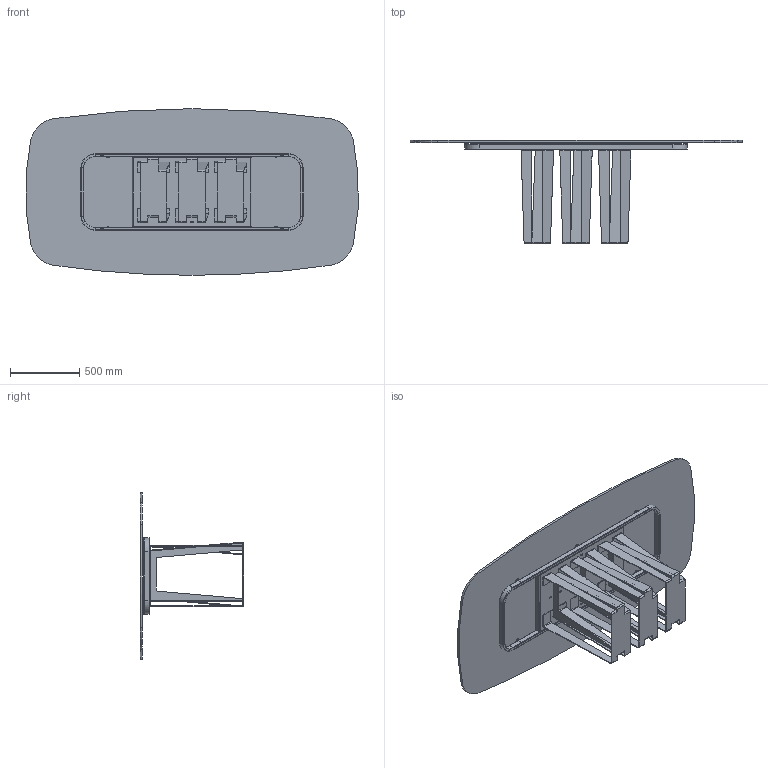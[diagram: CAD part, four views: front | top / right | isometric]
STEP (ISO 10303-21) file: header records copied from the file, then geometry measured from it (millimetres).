
FILE_DESCRIPTION (( 'STEP AP203' ), '1' );
FILE_NAME ('NA43G.STEP', '2024-08-07T14:38:11', ( '' ), ( '' ), 'SwSTEP 2.0', 'SolidWorks 2022', '' );
FILE_SCHEMA (( 'CONFIG_CONTROL_DESIGN' ));
Length unit declared in the file: millimetre
Products named in the file (8): TTAV01_02-01-VASSOIO IRRIGIDIMENTO TELAIO UNIVERSALE; NA43G; TTAV01-01-TELAIO UNIVERSALE X TAVOLI 180 240cm; NAB000000-00-NARCISO BASE SING. GREZZA; C4XCRXX-00-Piani Sagomati in Cristallo_2400 x 1200; M8xXXmm_M8x20mm; 434070-00-PIEDINO TPV GOMMA NERO D. 30x8max18; TTAV01_01-01-TELAIO UNIVERSALE X TAVOLI 180 240cm_Default<A macchina>
Assembly tree (19 placements, depth 3):
  NA43G
    C4XCRXX-00-Piani Sagomati in Cristallo_2400 x 1200
    434070-00-PIEDINO TPV GOMMA NERO D. 30x8max18  x6
    TTAV01-01-TELAIO UNIVERSALE X TAVOLI 180 240cm
      TTAV01_01-01-TELAIO UNIVERSALE X TAVOLI 180 240cm_Default<A macchina>
      TTAV01_02-01-VASSOIO IRRIGIDIMENTO TELAIO UNIVERSALE
    NAB000000-00-NARCISO BASE SING. GREZZA  x3
    M8xXXmm_M8x20mm  x6
Bounding box: 2391.62 x 745 x 1200 mm (x, y, z)
Volume: 51423393.9 mm3; surface area: 10319572.7 mm2
Topology: 34 solids, 34 shells, 1016 faces, 2470 edges, 1516 vertices
Faces by surface type: plane 545, cylinder 283, torus 80, cone 72, bspline 36
Entity records: 17523 total; most frequent: CARTESIAN_POINT 3165, DIRECTION 2823, ORIENTED_EDGE 2700, EDGE_CURVE 1350, AXIS2_PLACEMENT_3D 994, VERTEX_POINT 860, VECTOR 835, LINE 835
